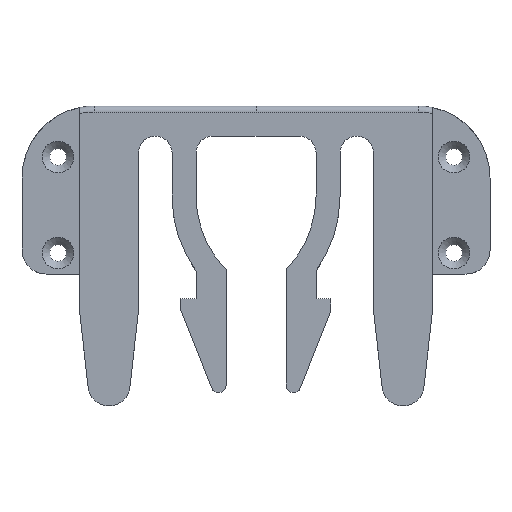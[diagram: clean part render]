
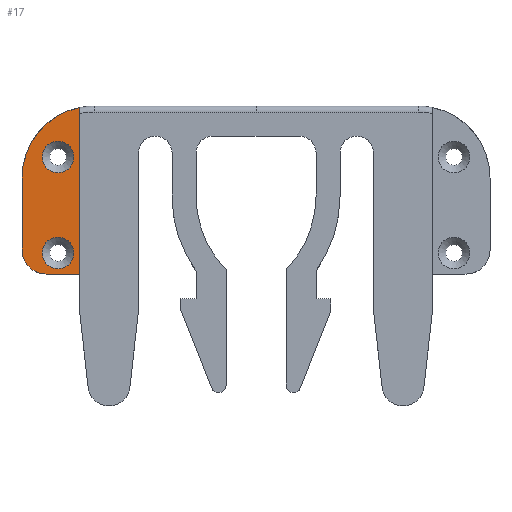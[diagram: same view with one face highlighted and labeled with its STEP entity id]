
A CAD part, top view. The second image highlights one B-rep face of the part: STEP entity #17.
In plain terms, the highlighted planar face has unit normal (0, 0, 1).
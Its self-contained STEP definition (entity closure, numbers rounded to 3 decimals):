
#17 = ADVANCED_FACE('',(#18,#175,#206),#32,.T.);
#18 = FACE_BOUND('',#19,.T.);
#19 = EDGE_LOOP('',(#20,#55,#83,#116,#144));
#20 = ORIENTED_EDGE('',*,*,#21,.F.);
#21 = EDGE_CURVE('',#22,#24,#26,.T.);
#22 = VERTEX_POINT('',#23);
#23 = CARTESIAN_POINT('',(-29.4,0.,4.));
#24 = VERTEX_POINT('',#25);
#25 = CARTESIAN_POINT('',(-35.,0.,4.));
#26 = SURFACE_CURVE('',#27,(#31,#43),.PCURVE_S1.);
#27 = LINE('',#28,#29);
#28 = CARTESIAN_POINT('',(-29.4,0.,4.));
#29 = VECTOR('',#30,1.);
#30 = DIRECTION('',(-1.,0.,0.));
#31 = PCURVE('',#32,#37);
#32 = PLANE('',#33);
#33 = AXIS2_PLACEMENT_3D('',#34,#35,#36);
#34 = CARTESIAN_POINT('',(0.,14.,4.));
#35 = DIRECTION('',(0.,0.,1.));
#36 = DIRECTION('',(0.,1.,0.));
#37 = DEFINITIONAL_REPRESENTATION('',(#38),#42);
#38 = LINE('',#39,#40);
#39 = CARTESIAN_POINT('',(-14.,29.4));
#40 = VECTOR('',#41,1.);
#41 = DIRECTION('',(0.,1.));
#42 = ( GEOMETRIC_REPRESENTATION_CONTEXT(2) 
PARAMETRIC_REPRESENTATION_CONTEXT() REPRESENTATION_CONTEXT('2D SPACE',''
  ) );
#43 = PCURVE('',#44,#49);
#44 = PLANE('',#45);
#45 = AXIS2_PLACEMENT_3D('',#46,#47,#48);
#46 = CARTESIAN_POINT('',(-29.4,0.,0.));
#47 = DIRECTION('',(0.,-1.,0.));
#48 = DIRECTION('',(-1.,0.,0.));
#49 = DEFINITIONAL_REPRESENTATION('',(#50),#54);
#50 = LINE('',#51,#52);
#51 = CARTESIAN_POINT('',(0.,-4.));
#52 = VECTOR('',#53,1.);
#53 = DIRECTION('',(1.,0.));
#54 = ( GEOMETRIC_REPRESENTATION_CONTEXT(2) 
PARAMETRIC_REPRESENTATION_CONTEXT() REPRESENTATION_CONTEXT('2D SPACE',''
  ) );
#55 = ORIENTED_EDGE('',*,*,#56,.F.);
#56 = EDGE_CURVE('',#57,#22,#59,.T.);
#57 = VERTEX_POINT('',#58);
#58 = CARTESIAN_POINT('',(-29.4,27.758,4.));
#59 = SURFACE_CURVE('',#60,(#64,#71),.PCURVE_S1.);
#60 = LINE('',#61,#62);
#61 = CARTESIAN_POINT('',(-29.4,28.,4.));
#62 = VECTOR('',#63,1.);
#63 = DIRECTION('',(0.,-1.,0.));
#64 = PCURVE('',#32,#65);
#65 = DEFINITIONAL_REPRESENTATION('',(#66),#70);
#66 = LINE('',#67,#68);
#67 = CARTESIAN_POINT('',(14.,29.4));
#68 = VECTOR('',#69,1.);
#69 = DIRECTION('',(-1.,0.));
#70 = ( GEOMETRIC_REPRESENTATION_CONTEXT(2) 
PARAMETRIC_REPRESENTATION_CONTEXT() REPRESENTATION_CONTEXT('2D SPACE',''
  ) );
#71 = PCURVE('',#72,#77);
#72 = PLANE('',#73);
#73 = AXIS2_PLACEMENT_3D('',#74,#75,#76);
#74 = CARTESIAN_POINT('',(-29.4,28.,5.));
#75 = DIRECTION('',(-1.,0.,0.));
#76 = DIRECTION('',(0.,-1.,0.));
#77 = DEFINITIONAL_REPRESENTATION('',(#78),#82);
#78 = LINE('',#79,#80);
#79 = CARTESIAN_POINT('',(0.,-1.));
#80 = VECTOR('',#81,1.);
#81 = DIRECTION('',(1.,0.));
#82 = ( GEOMETRIC_REPRESENTATION_CONTEXT(2) 
PARAMETRIC_REPRESENTATION_CONTEXT() REPRESENTATION_CONTEXT('2D SPACE',''
  ) );
#83 = ORIENTED_EDGE('',*,*,#84,.F.);
#84 = EDGE_CURVE('',#85,#57,#87,.T.);
#85 = VERTEX_POINT('',#86);
#86 = CARTESIAN_POINT('',(-39.,16.,4.));
#87 = SURFACE_CURVE('',#88,(#93,#104),.PCURVE_S1.);
#88 = CIRCLE('',#89,12.);
#89 = AXIS2_PLACEMENT_3D('',#90,#91,#92);
#90 = CARTESIAN_POINT('',(-27.,16.,4.));
#91 = DIRECTION('',(0.,0.,-1.));
#92 = DIRECTION('',(1.,0.,0.));
#93 = PCURVE('',#32,#94);
#94 = DEFINITIONAL_REPRESENTATION('',(#95),#103);
#95 = ( BOUNDED_CURVE() B_SPLINE_CURVE(2,(#96,#97,#98,#99,#100,#101,#102
),.UNSPECIFIED.,.T.,.F.) B_SPLINE_CURVE_WITH_KNOTS((1,2,2,2,2,1),(
    -2.094,0.,2.094,4.189,6.283,
8.378),.UNSPECIFIED.) CURVE() GEOMETRIC_REPRESENTATION_ITEM() 
RATIONAL_B_SPLINE_CURVE((1.,0.5,1.,0.5,1.,0.5,1.)) REPRESENTATION_ITEM(
  '') );
#96 = CARTESIAN_POINT('',(2.,15.));
#97 = CARTESIAN_POINT('',(-18.785,15.));
#98 = CARTESIAN_POINT('',(-8.392,33.));
#99 = CARTESIAN_POINT('',(2.,51.));
#100 = CARTESIAN_POINT('',(12.392,33.));
#101 = CARTESIAN_POINT('',(22.785,15.));
#102 = CARTESIAN_POINT('',(2.,15.));
#103 = ( GEOMETRIC_REPRESENTATION_CONTEXT(2) 
PARAMETRIC_REPRESENTATION_CONTEXT() REPRESENTATION_CONTEXT('2D SPACE',''
  ) );
#104 = PCURVE('',#105,#110);
#105 = CYLINDRICAL_SURFACE('',#106,12.);
#106 = AXIS2_PLACEMENT_3D('',#107,#108,#109);
#107 = CARTESIAN_POINT('',(-27.,16.,0.));
#108 = DIRECTION('',(-0.,-0.,-1.));
#109 = DIRECTION('',(1.,0.,0.));
#110 = DEFINITIONAL_REPRESENTATION('',(#111),#115);
#111 = LINE('',#112,#113);
#112 = CARTESIAN_POINT('',(-6.283,-4.));
#113 = VECTOR('',#114,1.);
#114 = DIRECTION('',(1.,-0.));
#115 = ( GEOMETRIC_REPRESENTATION_CONTEXT(2) 
PARAMETRIC_REPRESENTATION_CONTEXT() REPRESENTATION_CONTEXT('2D SPACE',''
  ) );
#116 = ORIENTED_EDGE('',*,*,#117,.F.);
#117 = EDGE_CURVE('',#118,#85,#120,.T.);
#118 = VERTEX_POINT('',#119);
#119 = CARTESIAN_POINT('',(-39.,4.,4.));
#120 = SURFACE_CURVE('',#121,(#125,#132),.PCURVE_S1.);
#121 = LINE('',#122,#123);
#122 = CARTESIAN_POINT('',(-39.,0.,4.));
#123 = VECTOR('',#124,1.);
#124 = DIRECTION('',(0.,1.,0.));
#125 = PCURVE('',#32,#126);
#126 = DEFINITIONAL_REPRESENTATION('',(#127),#131);
#127 = LINE('',#128,#129);
#128 = CARTESIAN_POINT('',(-14.,39.));
#129 = VECTOR('',#130,1.);
#130 = DIRECTION('',(1.,0.));
#131 = ( GEOMETRIC_REPRESENTATION_CONTEXT(2) 
PARAMETRIC_REPRESENTATION_CONTEXT() REPRESENTATION_CONTEXT('2D SPACE',''
  ) );
#132 = PCURVE('',#133,#138);
#133 = PLANE('',#134);
#134 = AXIS2_PLACEMENT_3D('',#135,#136,#137);
#135 = CARTESIAN_POINT('',(-39.,0.,0.));
#136 = DIRECTION('',(-1.,0.,0.));
#137 = DIRECTION('',(0.,1.,0.));
#138 = DEFINITIONAL_REPRESENTATION('',(#139),#143);
#139 = LINE('',#140,#141);
#140 = CARTESIAN_POINT('',(0.,-4.));
#141 = VECTOR('',#142,1.);
#142 = DIRECTION('',(1.,0.));
#143 = ( GEOMETRIC_REPRESENTATION_CONTEXT(2) 
PARAMETRIC_REPRESENTATION_CONTEXT() REPRESENTATION_CONTEXT('2D SPACE',''
  ) );
#144 = ORIENTED_EDGE('',*,*,#145,.F.);
#145 = EDGE_CURVE('',#24,#118,#146,.T.);
#146 = SURFACE_CURVE('',#147,(#152,#163),.PCURVE_S1.);
#147 = CIRCLE('',#148,4.);
#148 = AXIS2_PLACEMENT_3D('',#149,#150,#151);
#149 = CARTESIAN_POINT('',(-35.,4.,4.));
#150 = DIRECTION('',(-0.,-0.,-1.));
#151 = DIRECTION('',(0.,-1.,0.));
#152 = PCURVE('',#32,#153);
#153 = DEFINITIONAL_REPRESENTATION('',(#154),#162);
#154 = ( BOUNDED_CURVE() B_SPLINE_CURVE(2,(#155,#156,#157,#158,#159,#160
,#161),.UNSPECIFIED.,.T.,.F.) B_SPLINE_CURVE_WITH_KNOTS((1,2,2,2,2,1),(
    -2.094,0.,2.094,4.189,6.283,
8.378),.UNSPECIFIED.) CURVE() GEOMETRIC_REPRESENTATION_ITEM() 
RATIONAL_B_SPLINE_CURVE((1.,0.5,1.,0.5,1.,0.5,1.)) REPRESENTATION_ITEM(
  '') );
#155 = CARTESIAN_POINT('',(-14.,35.));
#156 = CARTESIAN_POINT('',(-14.,41.928));
#157 = CARTESIAN_POINT('',(-8.,38.464));
#158 = CARTESIAN_POINT('',(-2.,35.));
#159 = CARTESIAN_POINT('',(-8.,31.536));
#160 = CARTESIAN_POINT('',(-14.,28.072));
#161 = CARTESIAN_POINT('',(-14.,35.));
#162 = ( GEOMETRIC_REPRESENTATION_CONTEXT(2) 
PARAMETRIC_REPRESENTATION_CONTEXT() REPRESENTATION_CONTEXT('2D SPACE',''
  ) );
#163 = PCURVE('',#164,#169);
#164 = CYLINDRICAL_SURFACE('',#165,4.);
#165 = AXIS2_PLACEMENT_3D('',#166,#167,#168);
#166 = CARTESIAN_POINT('',(-35.,4.,0.));
#167 = DIRECTION('',(0.,0.,1.));
#168 = DIRECTION('',(0.,-1.,0.));
#169 = DEFINITIONAL_REPRESENTATION('',(#170),#174);
#170 = LINE('',#171,#172);
#171 = CARTESIAN_POINT('',(-0.,4.));
#172 = VECTOR('',#173,1.);
#173 = DIRECTION('',(-1.,0.));
#174 = ( GEOMETRIC_REPRESENTATION_CONTEXT(2) 
PARAMETRIC_REPRESENTATION_CONTEXT() REPRESENTATION_CONTEXT('2D SPACE',''
  ) );
#175 = FACE_BOUND('',#176,.T.);
#176 = EDGE_LOOP('',(#177));
#177 = ORIENTED_EDGE('',*,*,#178,.F.);
#178 = EDGE_CURVE('',#179,#179,#181,.T.);
#179 = VERTEX_POINT('',#180);
#180 = CARTESIAN_POINT('',(-30.35,3.5,4.));
#181 = SURFACE_CURVE('',#182,(#187,#194),.PCURVE_S1.);
#182 = CIRCLE('',#183,2.65);
#183 = AXIS2_PLACEMENT_3D('',#184,#185,#186);
#184 = CARTESIAN_POINT('',(-33.,3.5,4.));
#185 = DIRECTION('',(0.,0.,1.));
#186 = DIRECTION('',(1.,0.,0.));
#187 = PCURVE('',#32,#188);
#188 = DEFINITIONAL_REPRESENTATION('',(#189),#193);
#189 = CIRCLE('',#190,2.65);
#190 = AXIS2_PLACEMENT_2D('',#191,#192);
#191 = CARTESIAN_POINT('',(-10.5,33.));
#192 = DIRECTION('',(0.,-1.));
#193 = ( GEOMETRIC_REPRESENTATION_CONTEXT(2) 
PARAMETRIC_REPRESENTATION_CONTEXT() REPRESENTATION_CONTEXT('2D SPACE',''
  ) );
#194 = PCURVE('',#195,#200);
#195 = CONICAL_SURFACE('',#196,2.65,0.785);
#196 = AXIS2_PLACEMENT_3D('',#197,#198,#199);
#197 = CARTESIAN_POINT('',(-33.,3.5,4.));
#198 = DIRECTION('',(0.,0.,1.));
#199 = DIRECTION('',(1.,0.,0.));
#200 = DEFINITIONAL_REPRESENTATION('',(#201),#205);
#201 = LINE('',#202,#203);
#202 = CARTESIAN_POINT('',(0.,-0.));
#203 = VECTOR('',#204,1.);
#204 = DIRECTION('',(1.,-0.));
#205 = ( GEOMETRIC_REPRESENTATION_CONTEXT(2) 
PARAMETRIC_REPRESENTATION_CONTEXT() REPRESENTATION_CONTEXT('2D SPACE',''
  ) );
#206 = FACE_BOUND('',#207,.T.);
#207 = EDGE_LOOP('',(#208));
#208 = ORIENTED_EDGE('',*,*,#209,.F.);
#209 = EDGE_CURVE('',#210,#210,#212,.T.);
#210 = VERTEX_POINT('',#211);
#211 = CARTESIAN_POINT('',(-30.35,19.5,4.));
#212 = SURFACE_CURVE('',#213,(#218,#225),.PCURVE_S1.);
#213 = CIRCLE('',#214,2.65);
#214 = AXIS2_PLACEMENT_3D('',#215,#216,#217);
#215 = CARTESIAN_POINT('',(-33.,19.5,4.));
#216 = DIRECTION('',(0.,0.,1.));
#217 = DIRECTION('',(1.,0.,0.));
#218 = PCURVE('',#32,#219);
#219 = DEFINITIONAL_REPRESENTATION('',(#220),#224);
#220 = CIRCLE('',#221,2.65);
#221 = AXIS2_PLACEMENT_2D('',#222,#223);
#222 = CARTESIAN_POINT('',(5.5,33.));
#223 = DIRECTION('',(0.,-1.));
#224 = ( GEOMETRIC_REPRESENTATION_CONTEXT(2) 
PARAMETRIC_REPRESENTATION_CONTEXT() REPRESENTATION_CONTEXT('2D SPACE',''
  ) );
#225 = PCURVE('',#226,#231);
#226 = CONICAL_SURFACE('',#227,2.65,0.785);
#227 = AXIS2_PLACEMENT_3D('',#228,#229,#230);
#228 = CARTESIAN_POINT('',(-33.,19.5,4.));
#229 = DIRECTION('',(0.,0.,1.));
#230 = DIRECTION('',(1.,0.,0.));
#231 = DEFINITIONAL_REPRESENTATION('',(#232),#236);
#232 = LINE('',#233,#234);
#233 = CARTESIAN_POINT('',(0.,-0.));
#234 = VECTOR('',#235,1.);
#235 = DIRECTION('',(1.,-0.));
#236 = ( GEOMETRIC_REPRESENTATION_CONTEXT(2) 
PARAMETRIC_REPRESENTATION_CONTEXT() REPRESENTATION_CONTEXT('2D SPACE',''
  ) );
